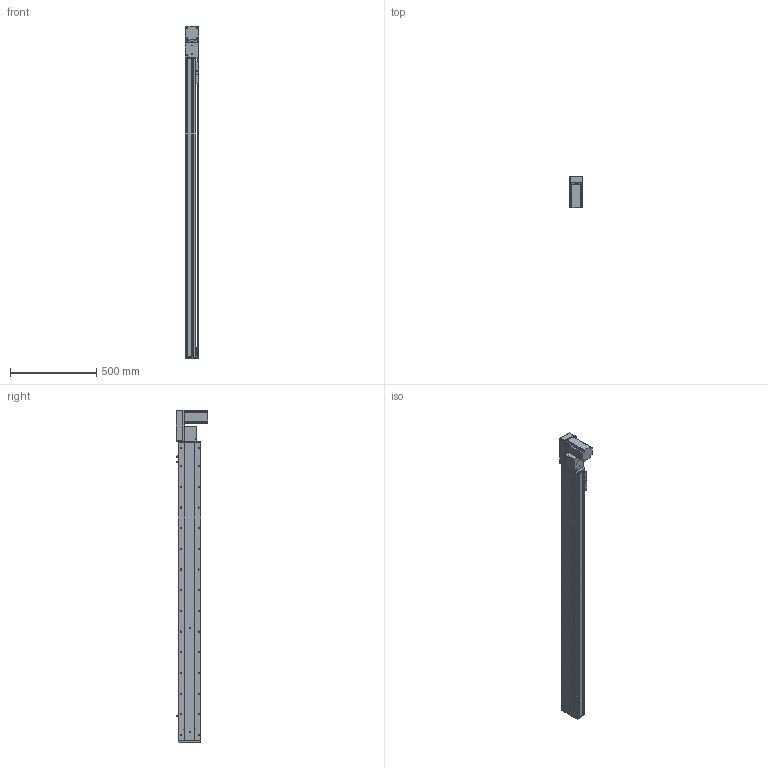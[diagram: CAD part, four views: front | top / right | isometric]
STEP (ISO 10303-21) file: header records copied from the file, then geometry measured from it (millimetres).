
FILE_DESCRIPTION (( 'STEP AP214' ), '1' );
FILE_NAME ('KSD130B-S1500-MRB-CM.STEP', '2019-09-21T07:10:58', ( '微软用户' ), ( '微软中国' ), 'SwSTEP 2.0', 'SolidWorks 2014', '' );
FILE_SCHEMA (( 'AUTOMOTIVE_DESIGN' ));
Length unit declared in the file: millimetre
Products named in the file (13): 130宽马达安装板同步带半封闭; 130宽同步带安装座半封闭; 130宽端盖同步带半封闭; 肮祭謫盓傅釱ㄗ蜊ㄘ; 130宽底板半封闭同步带-1500行程; KSD130B-S1500-MRB-CM; 台达ECMA－C20807AS伺服电机; 130宽模组保护罩上下左右折-同步带; 130宽模组马达安装板连板左右折同步带; 覜茼え100遵圉猾敕; U倰嫖萇EEㄜSX672; 130宽盖板半封闭同步带-1500行程; 130宽马达安装板同步带右-改镜向_默认<按加工>
Assembly tree (14 placements, depth 2):
  KSD130B-S1500-MRB-CM
    130宽底板半封闭同步带-1500行程
    肮祭謫盓傅釱ㄗ蜊ㄘ
    130宽端盖同步带半封闭
    130宽同步带安装座半封闭
    130宽马达安装板同步带半封闭
    130宽马达安装板同步带右-改镜向_默认<按加工>
    130宽盖板半封闭同步带-1500行程
    U倰嫖萇EEㄜSX672  x3
    覜茼え100遵圉猾敕
    130宽模组马达安装板连板左右折同步带
    130宽模组保护罩上下左右折-同步带
    台达ECMA－C20807AS伺服电机
Bounding box: 81 x 184.8 x 1927 mm (x, y, z)
Volume: 6381382.6 mm3; surface area: 1786918.4 mm2
Topology: 15 solids, 15 shells, 1686 faces, 4870 edges, 3093 vertices
Faces by surface type: cylinder 822, plane 653, cone 211
Entity records: 57064 total; most frequent: CARTESIAN_POINT 10899, DIRECTION 8592, ORIENTED_EDGE 8304, EDGE_CURVE 4152, AXIS2_PLACEMENT_3D 3152, VERTEX_POINT 2717, VECTOR 2288, LINE 2288
